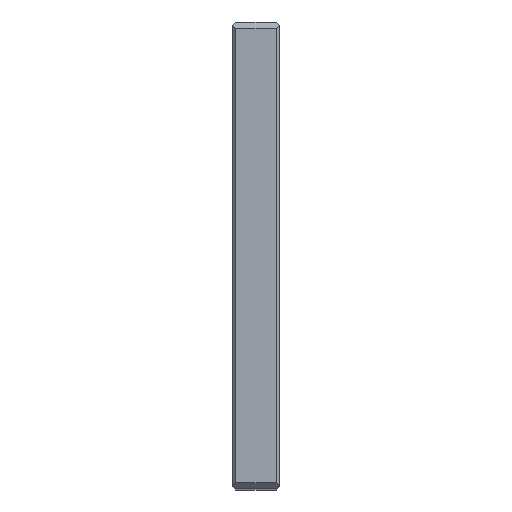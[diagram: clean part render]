
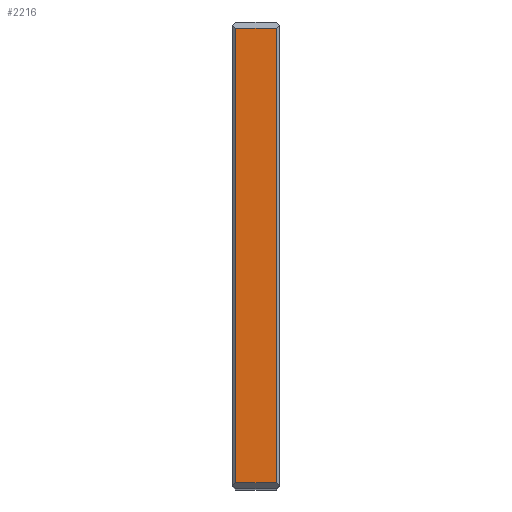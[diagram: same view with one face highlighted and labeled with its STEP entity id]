
A CAD part, top view. The second image highlights one B-rep face of the part: STEP entity #2216.
In plain terms, the highlighted planar face has unit normal (0, 0, 1).
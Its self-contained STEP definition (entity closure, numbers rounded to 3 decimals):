
#610=FACE_OUTER_BOUND($,#873,.T.);
#873=EDGE_LOOP($,(#1867,#1868,#1869,#1870));
#1176=LINE($,#3509,#1216);
#1184=LINE($,#3622,#1224);
#1189=LINE($,#3632,#1229);
#1207=LINE($,#3764,#1247);
#1216=VECTOR($,#2742,13.);
#1224=VECTOR($,#2852,146.);
#1229=VECTOR($,#2859,13.);
#1247=VECTOR($,#2991,146.);
#1255=VERTEX_POINT($,#3506);
#1256=VERTEX_POINT($,#3508);
#1310=VERTEX_POINT($,#3620);
#1314=VERTEX_POINT($,#3630);
#1476=EDGE_CURVE($,#1255,#1256,#1176,.T.);
#1533=EDGE_CURVE($,#1310,#1255,#1184,.T.);
#1538=EDGE_CURVE($,#1314,#1310,#1189,.T.);
#1605=EDGE_CURVE($,#1256,#1314,#1207,.T.);
#1867=ORIENTED_EDGE($,*,*,#1533,.F.);
#1868=ORIENTED_EDGE($,*,*,#1538,.F.);
#1869=ORIENTED_EDGE($,*,*,#1605,.F.);
#1870=ORIENTED_EDGE($,*,*,#1476,.F.);
#2193=PLANE($,#2482);
#2216=ADVANCED_FACE($,(#610),#2193,.T.);
#2482=AXIS2_PLACEMENT_3D($,#3769,#2996,#2997);
#2742=DIRECTION($,(1.,0.,0.));
#2852=DIRECTION($,(0.,1.,0.));
#2859=DIRECTION($,(-1.,0.,0.));
#2991=DIRECTION($,(0.,-1.,0.));
#2996=DIRECTION('center_axis',(0.,0.,1.));
#2997=DIRECTION('ref_axis',(0.,-1.,0.));
#3506=CARTESIAN_POINT('',(1.,148.,200.));
#3508=CARTESIAN_POINT('',(14.,148.,200.));
#3509=CARTESIAN_POINT($,(0.,148.,200.));
#3620=CARTESIAN_POINT('',(1.,2.,200.));
#3622=CARTESIAN_POINT($,(1.,112.5,200.));
#3630=CARTESIAN_POINT('',(14.,2.,200.));
#3632=CARTESIAN_POINT($,(0.,2.,200.));
#3764=CARTESIAN_POINT($,(14.,112.5,200.));
#3769=CARTESIAN_POINT('Origin',(0.,150.,200.));
